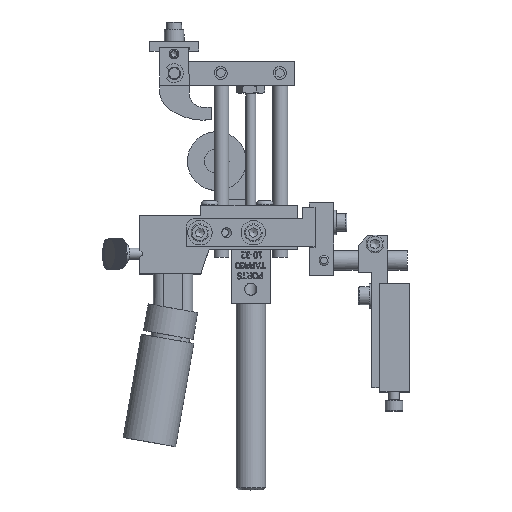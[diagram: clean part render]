
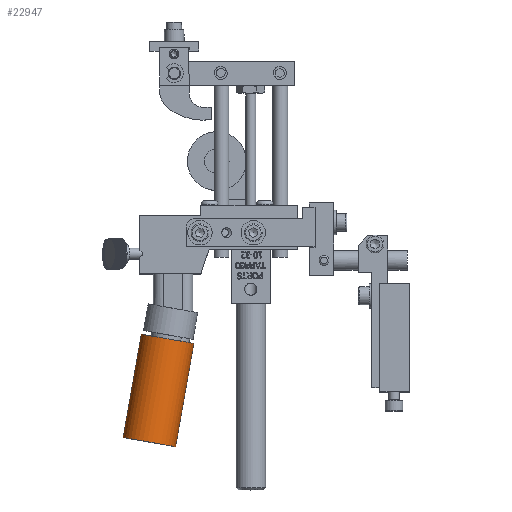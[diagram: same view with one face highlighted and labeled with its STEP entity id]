
A CAD part, top view. The second image highlights one B-rep face of the part: STEP entity #22947.
In plain terms, the highlighted cylindrical face has radius 8.636 mm (diameter 17.272 mm), a full revolution.
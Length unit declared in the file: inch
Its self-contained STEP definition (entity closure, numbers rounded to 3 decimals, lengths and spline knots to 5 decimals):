
#22906=CARTESIAN_POINT('',(-0.70572,-3.40521,-0.55726));
#22907=VERTEX_POINT('',#22906);
#22908=CARTESIAN_POINT('',(-0.61308,-3.42155,-0.23053));
#22909=DIRECTION('',(-0.174,-0.985,0.));
#22910=DIRECTION('',(0.272,-0.048,0.961));
#22911=AXIS2_PLACEMENT_3D('',#22908,#22909,#22910);
#22912=CIRCLE('',#22911,0.34);
#22913=EDGE_CURVE('',#22907,#22907,#22912,.T.);
#22928=CARTESIAN_POINT('',(-0.8449,-4.73627,-0.23053));
#22929=DIRECTION('',(0.174,0.985,0.));
#22930=DIRECTION('',(0.272,-0.048,0.961));
#22931=AXIS2_PLACEMENT_3D('',#22928,#22929,#22930);
#22932=CYLINDRICAL_SURFACE('',#22931,0.34);
#22933=ORIENTED_EDGE('',*,*,#22913,.T.);
#22934=EDGE_LOOP('',(#22933));
#22935=FACE_OUTER_BOUND('',#22934,.T.);
#22936=CARTESIAN_POINT('',(-0.93754,-4.71993,-0.55726));
#22937=VERTEX_POINT('',#22936);
#22938=CARTESIAN_POINT('',(-0.8449,-4.73627,-0.23053));
#22939=DIRECTION('',(-0.174,-0.985,0.));
#22940=DIRECTION('',(0.272,-0.048,0.961));
#22941=AXIS2_PLACEMENT_3D('',#22938,#22939,#22940);
#22942=CIRCLE('',#22941,0.34);
#22943=EDGE_CURVE('',#22937,#22937,#22942,.T.);
#22944=ORIENTED_EDGE('',*,*,#22943,.F.);
#22945=EDGE_LOOP('',(#22944));
#22946=FACE_BOUND('',#22945,.T.);
#22947=ADVANCED_FACE('',(#22935,#22946),#22932,.T.);
